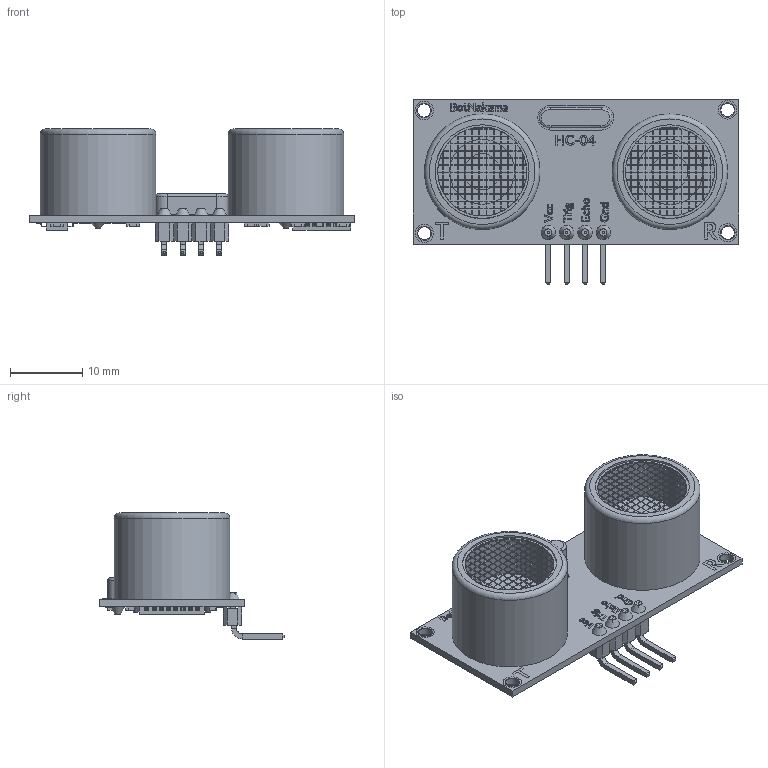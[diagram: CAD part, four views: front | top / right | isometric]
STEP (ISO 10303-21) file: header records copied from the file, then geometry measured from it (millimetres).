
FILE_DESCRIPTION(/* description */ ('FreeCAD Model'),/* implementation_level */ '2;1');
FILE_NAME(/* name */ 'C:\Users\Eduardo Tafur Sueldo\OneDrive\Desktop\GrabCad\HC-04HC-04.stp',/* time_stamp */ '2023-09-24T15:48:05-05:00',/* author */ ('Eduardo Tafur Sueldo'),/* organization */ (''),/* preprocessor_version */ 'ST-DEVELOPER v18.1',/* originating_system */ 'Autodesk Inventor 2022',/* authorisation */ 'Unknown');
FILE_SCHEMA (('AUTOMOTIVE_DESIGN { 1 0 10303 214 3 1 1 }'));
Length unit declared in the file: millimetre
Products named in the file (61): HC-04HC-04; HC-04Array; HC-04Array001; HC-04Placa; HC-04Pad003; HC-04Fillet; HC-04Array002; HC-04Array003; HC-04Fusion; HC-04Fillet001; HC-04Pad005; HC-04Pad006; HC-04Fusion001; HC-04Clone_of_Fusion002; HC-04Clone_of_Fusion003; HC-04Array005; HC-04Array002002; HC-04Clone_of_Array002002; HC-04Array002003; HC-04Clone_of_Array002003; HC-04Integrados; HC-04ShapeString; HC-04ShapeString001; HC-04ShapeString002; HC-04ShapeString003; HC-04ShapeString004; HC-04ShapeString005; HC-04ShapeString006; HC-04Pad008; HC-04Scale004; HC-04Scale027; HC-04Scale028; HC-04Scale029; HC-04Scale030; HC-04Scale031; HC-04Scale032; HC-04Scale033; HC-04Scale034; HC-04Scale035; HC-04Scale036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
Assembly tree (60 placements, depth 2):
  HC-04HC-04
    HC-04Array
    HC-04Array001
    HC-04Placa
    HC-04Pad003
    HC-04Fillet
    HC-04Array002
    HC-04Array003
    HC-04Fusion
    HC-04Fillet001
    HC-04Pad005
    HC-04Pad006
    HC-04Fusion001
    HC-04Clone_of_Fusion002
    HC-04Clone_of_Fusion003
    HC-04Array005
    HC-04Array002002
    HC-04Clone_of_Array002002
    HC-04Array002003
    HC-04Clone_of_Array002003
    HC-04Integrados
    HC-04ShapeString
    HC-04ShapeString001
    HC-04ShapeString002
    HC-04ShapeString003
    HC-04ShapeString004
    HC-04ShapeString005
    HC-04ShapeString006
    HC-04Pad008
    HC-04Scale004
    HC-04Scale027
    HC-04Scale028
    HC-04Scale029
    HC-04Scale030
    HC-04Scale031
    HC-04Scale032
    HC-04Scale033
    HC-04Scale034
    HC-04Scale035
    HC-04Scale036
    HC-04Scale037
    HC-04Scale038
    HC-04Scale039
    HC-04Scale040
    HC-04Scale041
    HC-04Scale042
    HC-04Scale043
    HC-04Scale044
    HC-04Scale045
    HC-04Scale046
    HC-04Scale047
    HC-04Scale048
    HC-04Scale049
    HC-04Pad009
    HC-04ShapeString007
    HC-04ShapeString008
    HC-04ShapeString009
    HC-04ShapeString010
    HC-04Fusion002
    HC-04ShapeString011
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Bounding box: 45 x 25.57 x 17.45 mm (x, y, z)
Volume: 3784.1 mm3; surface area: 7158.3 mm2
Topology: 158 solids, 213 shells, 3201 faces, 9245 edges, 6334 vertices
Faces by surface type: plane 2954, cylinder 227, cone 16, torus 4
Full cylindrical faces by diameter (mm): 0.6 x3, 1.6 x10, 1.82 x4, 2 x4, 2.527 x4, 9 x2, 12.32 x2, 13 x6, 16 x2
Entity records: 108998 total; most frequent: CARTESIAN_POINT 22682, ORIENTED_EDGE 16996, DIRECTION 15438, EDGE_CURVE 9245, LINE 7430, VECTOR 7430, VERTEX_POINT 6334, AXIS2_PLACEMENT_3D 4004
